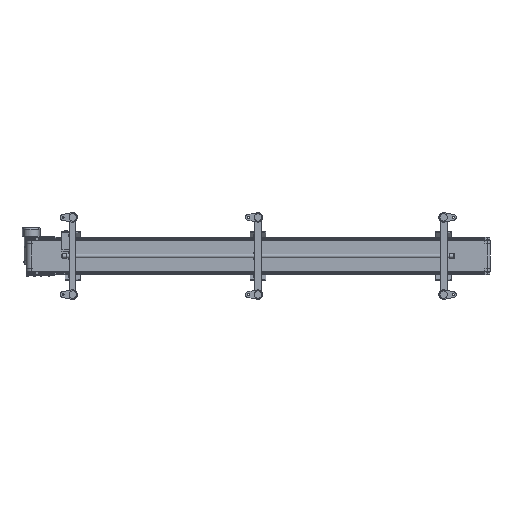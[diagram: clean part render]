
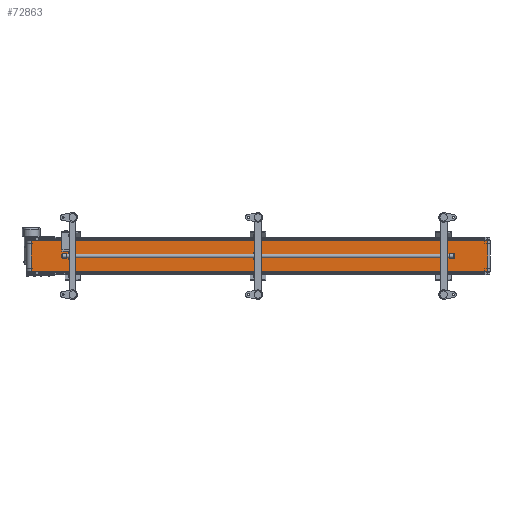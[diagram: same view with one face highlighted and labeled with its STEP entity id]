
A CAD part, front view. The second image highlights one B-rep face of the part: STEP entity #72863.
In plain terms, the highlighted planar face has unit normal (0.011, -1, 0).
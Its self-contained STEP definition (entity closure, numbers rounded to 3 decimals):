
#1731 = AXIS2_PLACEMENT_3D ( 'NONE', #32885, #15700, #59128 ) ;
#2353 = CARTESIAN_POINT ( 'NONE',  ( 2986.169, -26.799, -100. ) ) ;
#4078 = EDGE_CURVE ( 'NONE', #19591, #63435, #29270, .T. ) ;
#8058 = LINE ( 'NONE', #60102, #69503 ) ;
#15700 = DIRECTION ( 'NONE',  ( -0.011, 1., 0. ) ) ;
#19249 = DIRECTION ( 'NONE',  ( 1., 0.011, 0. ) ) ;
#19591 = VERTEX_POINT ( 'NONE', #72253 ) ;
#22535 = VERTEX_POINT ( 'NONE', #51050 ) ;
#26494 = CARTESIAN_POINT ( 'NONE',  ( 30.858, -60.448, -100. ) ) ;
#27665 = FACE_OUTER_BOUND ( 'NONE', #59881, .T. ) ;
#28369 = VECTOR ( 'NONE', #73630, 1000. ) ;
#29270 = LINE ( 'NONE', #65960, #28369 ) ;
#32885 = CARTESIAN_POINT ( 'NONE',  ( 30.858, -60.448, 100. ) ) ;
#33641 = ORIENTED_EDGE ( 'NONE', *, *, #4078, .F. ) ;
#37582 = EDGE_CURVE ( 'NONE', #22535, #44594, #45670, .T. ) ;
#38782 = PLANE ( 'NONE',  #1731 ) ;
#42685 = ORIENTED_EDGE ( 'NONE', *, *, #60411, .T. ) ;
#44276 = DIRECTION ( 'NONE',  ( 0., 0., -1. ) ) ;
#44594 = VERTEX_POINT ( 'NONE', #26494 ) ;
#45670 = LINE ( 'NONE', #69467, #69672 ) ;
#50139 = CARTESIAN_POINT ( 'NONE',  ( 30.858, -60.448, -100. ) ) ;
#51050 = CARTESIAN_POINT ( 'NONE',  ( 30.858, -60.448, 100. ) ) ;
#56902 = ORIENTED_EDGE ( 'NONE', *, *, #37582, .T. ) ;
#59128 = DIRECTION ( 'NONE',  ( -1., -0.011, 0. ) ) ;
#59881 = EDGE_LOOP ( 'NONE', ( #42685, #33641, #65916, #56902 ) ) ;
#60102 = CARTESIAN_POINT ( 'NONE',  ( 30.858, -60.448, 100. ) ) ;
#60411 = EDGE_CURVE ( 'NONE', #44594, #63435, #63601, .T. ) ;
#63435 = VERTEX_POINT ( 'NONE', #2353 ) ;
#63601 = LINE ( 'NONE', #50139, #78056 ) ;
#65916 = ORIENTED_EDGE ( 'NONE', *, *, #67449, .F. ) ;
#65960 = CARTESIAN_POINT ( 'NONE',  ( 2986.169, -26.799, 100. ) ) ;
#66772 = DIRECTION ( 'NONE',  ( 1., 0.011, 0. ) ) ;
#67449 = EDGE_CURVE ( 'NONE', #22535, #19591, #8058, .T. ) ;
#69467 = CARTESIAN_POINT ( 'NONE',  ( 30.858, -60.448, 100. ) ) ;
#69503 = VECTOR ( 'NONE', #66772, 1000. ) ;
#69672 = VECTOR ( 'NONE', #44276, 1000. ) ;
#72253 = CARTESIAN_POINT ( 'NONE',  ( 2986.169, -26.799, 100. ) ) ;
#72863 = ADVANCED_FACE ( 'NONE', ( #27665 ), #38782, .F. ) ;
#73630 = DIRECTION ( 'NONE',  ( 0., 0., -1. ) ) ;
#78056 = VECTOR ( 'NONE', #19249, 1000. ) ;
